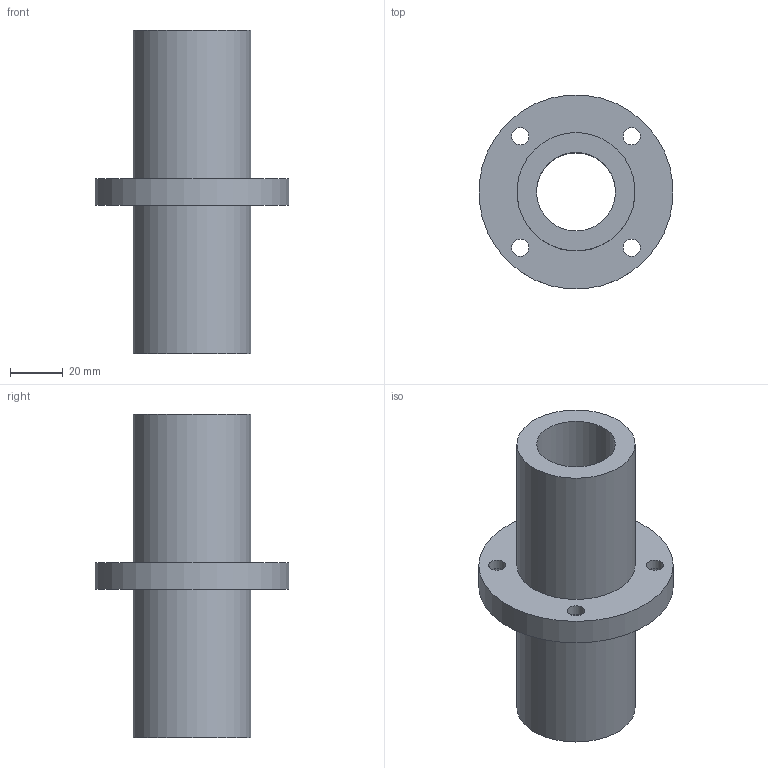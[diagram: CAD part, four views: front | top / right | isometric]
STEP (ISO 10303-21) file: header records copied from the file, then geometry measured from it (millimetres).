
FILE_DESCRIPTION(/* description */ (''),/* implementation_level */ '2;1');
FILE_NAME(/* name */ 'LMFM30LUU',/* time_stamp */ '2019-07-03T11:01:12+02:00',/* author */ ('VĂ©gh MĂˇtĂ©'),/* organization */ ('Bearing Kft'),/* preprocessor_version */ 'ST-DEVELOPER v16.7',/* originating_system */ 'DEX',/* authorisation */ $);
FILE_SCHEMA (('AUTOMOTIVE_DESIGN {1 0 10303 214 3 1 1}'));
Length unit declared in the file: millimetre
Products named in the file (1): LMFM30LUU
Bounding box: 73.72 x 73.72 x 123 mm (x, y, z)
Volume: 132923.9 mm3; surface area: 38006 mm2
Topology: 1 solids, 1 shells, 339 faces, 853 edges, 570 vertices
Faces by surface type: plane 264, bspline 61, cylinder 14
Full cylindrical faces by diameter (mm): 6.6 x4, 11 x4, 30 x1, 45 x2, 74 x1
Entity records: 13112 total; most frequent: CARTESIAN_POINT 5373, ORIENTED_EDGE 1668, DIRECTION 1298, EDGE_CURVE 834, LINE 684, VECTOR 684, VERTEX_POINT 566, EDGE_LOOP 418
